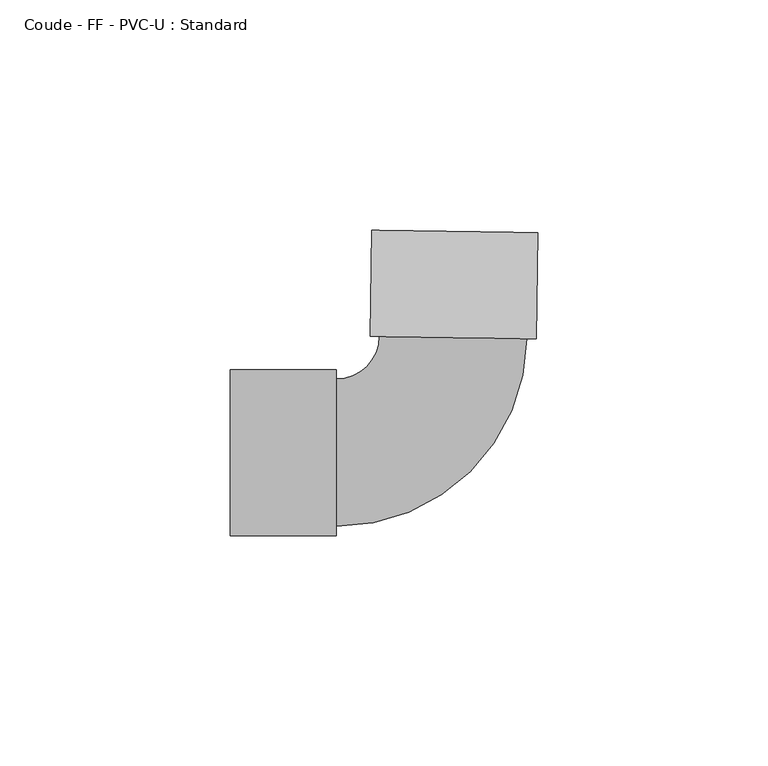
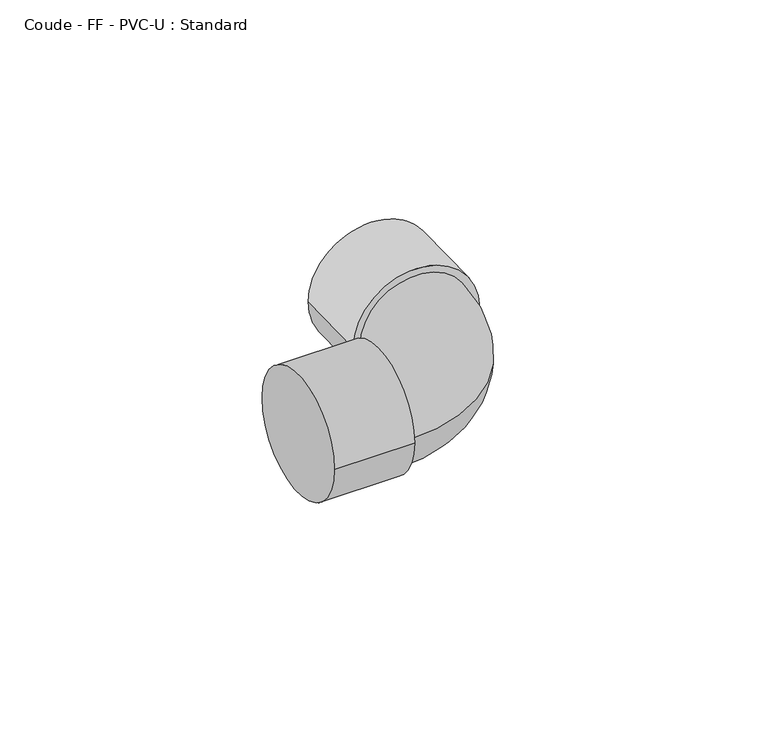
"""IFC4 building model written with IfcOpenShell, lengths in millimetres: pipe fitting geometry, Coude - FF - PVC-U : Standard."""

from ifc_helpers import new_model, si_unit, point, frame, origin, place, context, project, spatial, circle_curve, ellipse_curve, trimmed, source, transform, mapped, element, save
from ifc_brep_helpers import plane_surface, cylinder_surface, revolved_surface, advanced_brep


def coude_ff_pvc_u_standard_dcdbfd8c(model_context):
    return source(origin(), model_context, "Body", "AdvancedBrep", [
        advanced_brep(
        [(-48.0, -18.0, 0.0), (-48.0, 18.0, 0.0), (-25.0, -18.0, 0.0), (-25.0, 18.0, 0.0), (-25.0, -16.0, 0.0), (-25.0, 16.0, 0.0), (-15.6270742, 25.2347886, 0.0), (16.369399, 24.7597007, 0.0), (18.3691785, 24.7300077, 0.0), (-17.6268537, 25.2644815, 0.0), (18.7106479, 47.7274727, 0.0), (-17.2853843, 48.2619466, 0.0)],
        [
            (0, 1, circle_curve(frame((-48.0, 0.0, 0.0), z_axis=(-1.0, 0.0, 0.0), x_axis=(0.0, 1.0, 0.0)), 18.0)),
            (1, 0, circle_curve(frame((-48.0, 0.0, 0.0), z_axis=(-1.0, 0.0, 0.0), x_axis=(0.0, 1.0, 0.0)), 18.0)),
            (2, 3, circle_curve(frame((-25.0, 0.0, 0.0), z_axis=(1.0, 0.0, 0.0), x_axis=(0.0, 1.0, 0.0)), 18.0)),
            (3, 2, circle_curve(frame((-25.0, 0.0, 0.0), z_axis=(1.0, 0.0, 0.0), x_axis=(0.0, 1.0, 0.0)), 18.0)),
            (4, 5, circle_curve(frame((-25.0, 0.0, 0.0), z_axis=(-1.0, 0.0, 0.0), x_axis=(0.0, 1.0, 0.0)), 16.0)),
            (5, 4, circle_curve(frame((-25.0, 0.0, 0.0), z_axis=(-1.0, 0.0, 0.0), x_axis=(0.0, 1.0, 0.0)), 16.0)),
            (0, 2),
            (3, 1),
            (6, 5, circle_curve(frame((-25.0, 25.373959, 0.0), z_axis=(0.0, 0.0, -1.0), x_axis=(0.0, -1.0, 0.0)), 9.373959)),
            (4, 7, circle_curve(frame((-25.0, 25.373959, 0.0), z_axis=(0.0, 0.0, 1.0), x_axis=(0.0, -1.0, 0.0)), 41.373959)),
            (7, 6, circle_curve(frame((0.3711624, 24.9972446, 0.0), z_axis=(-0.014846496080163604, -0.9998897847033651, 0.0), x_axis=(-0.9998897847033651, 0.014846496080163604, 0.0)), 16.0)),
            (6, 7, circle_curve(frame((0.3711624, 24.9972446, 0.0), z_axis=(-0.014846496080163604, -0.9998897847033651, 0.0), x_axis=(-0.9998897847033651, 0.014846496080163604, 0.0)), 16.0)),
            (8, 9, circle_curve(frame((0.3711624, 24.9972446, 0.0), z_axis=(-0.014846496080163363, -0.9998897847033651, 0.0), x_axis=(-0.9998897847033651, 0.014846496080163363, 0.0)), 18.0)),
            (9, 8, circle_curve(frame((0.3711624, 24.9972446, 0.0), z_axis=(-0.014846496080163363, -0.9998897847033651, 0.0), x_axis=(-0.9998897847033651, 0.014846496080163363, 0.0)), 18.0)),
            (10, 11, circle_curve(frame((0.7126318, 47.9947097, 0.0), z_axis=(0.014846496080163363, 0.9998897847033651, 0.0), x_axis=(-0.9998897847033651, 0.014846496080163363, 0.0)), 18.0)),
            (11, 10, circle_curve(frame((0.7126318, 47.9947097, 0.0), z_axis=(0.014846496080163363, 0.9998897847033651, 0.0), x_axis=(-0.9998897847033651, 0.014846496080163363, 0.0)), 18.0)),
            (8, 10),
            (11, 9),
        ],
        [
            plane_surface(frame((-48.0, 0.0, 0.0), z_axis=(-1.0, 0.0, 0.0), x_axis=(0.0, 0.0, 1.0))),
            plane_surface(frame((-25.0, 0.0, 0.0), z_axis=(1.0, 0.0, 0.0), x_axis=(0.0, 0.0, 1.0))),
            cylinder_surface(frame((-48.0, 0.0, 0.0), z_axis=(-1.0, 0.0, 0.0), x_axis=(0.0, 1.0, 0.0)), 18.0),
            revolved_surface(trimmed(ellipse_curve(frame((-25.0, 0.0, 0.0), z_axis=(-1.0, 0.0, 0.0), x_axis=(0.0, 1.0, 0.0)), 16.0, 16.0), [point((-25.0, -16.0, 0.0))], [point((-25.0, 16.0, 0.0))], True, "CARTESIAN"), (-25.0, 25.373959, 0.0), (0.0, 0.0, 1.0)),
            revolved_surface(trimmed(ellipse_curve(frame((-25.0, 0.0, 0.0), z_axis=(-1.0, 0.0, 0.0), x_axis=(0.0, 1.0, 0.0)), 16.0, 16.0), [point((-25.0, 16.0, 0.0))], [point((-25.0, -16.0, 0.0))], True, "CARTESIAN"), (-25.0, 25.373959, 0.0), (0.0, 0.0, 1.0)),
            plane_surface(frame((0.3711624, 24.9972446, 0.0), z_axis=(-0.014846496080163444, -0.9998897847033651, 0.0), x_axis=(0.0, 0.0, 1.0))),
            plane_surface(frame((0.7126318, 47.9947097, 0.0), z_axis=(0.014846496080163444, 0.9998897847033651, 0.0), x_axis=(0.0, 0.0, 1.0))),
            cylinder_surface(frame((0.3711624, 24.9972446, 0.0), z_axis=(-0.014846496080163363, -0.9998897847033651, 0.0), x_axis=(-0.9998897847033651, 0.014846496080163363, 0.0)), 18.0),
        ],
        [
            (0, [[1, 2]]),
            (1, [[3, 4], [5, 6]]),
            (2, [[-1, 7, -4, 8]]),
            (2, [[-2, -8, -3, -7]]),
            (3, [[9, -5, 10, 11]]),
            (4, [[-9, 12, -10, -6]]),
            (5, [[13, 14], [-11, -12]]),
            (6, [[15, 16]]),
            (7, [[-13, 17, -16, 18]]),
            (7, [[-14, -18, -15, -17]]),
        ],
    ),
    ])


if __name__ == "__main__":
    model = new_model("IFC4")
    model_context = context("Model", 3, world=origin())
    ifc_project = project(units=[si_unit("LENGTHUNIT", "METRE", prefix="MILLI")], contexts=[model_context])
    site = spatial("IfcSite", under=ifc_project)
    building = spatial("IfcBuilding", under=site)
    placement = place(None, origin())
    coude_ff_pvc_u_standard_shape = coude_ff_pvc_u_standard_dcdbfd8c(model_context)
    element("IfcPipeFitting", 1, ObjectType="Coude - FF - PVC-U : Standard", at=placement, inside=building, context=model_context, shape_type="MappedRepresentation", body=[
        mapped(coude_ff_pvc_u_standard_shape, transform((0.0, 0.0, 0.0), x_axis=(1.0, 0.0, 0.0), y_axis=(0.0, 1.0, 0.0), z_axis=(0.0, 0.0, 1.0))),
    ])
    save(model, "model.ifc")
